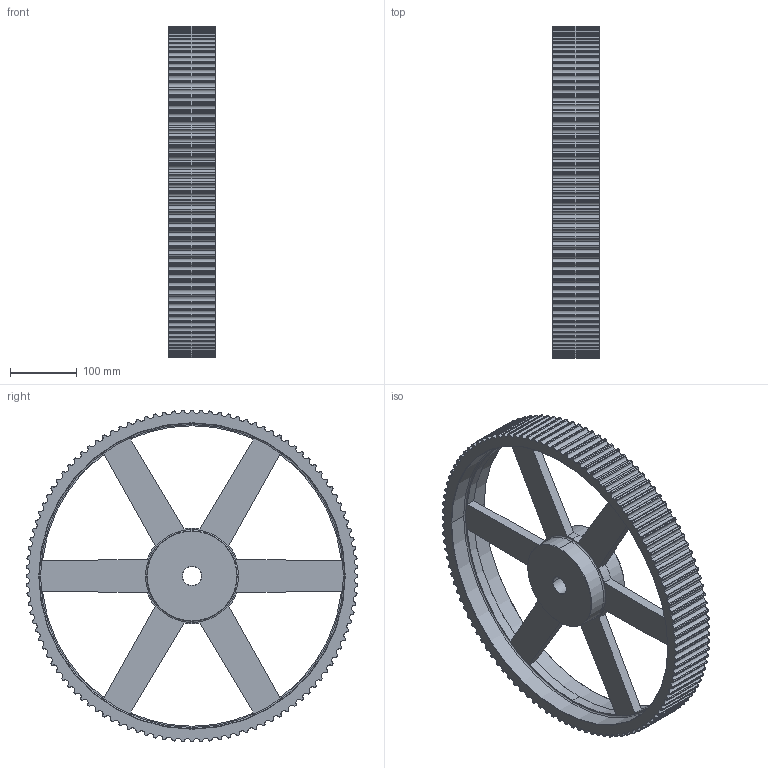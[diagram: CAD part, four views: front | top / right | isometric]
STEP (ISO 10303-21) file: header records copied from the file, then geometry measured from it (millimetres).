
FILE_DESCRIPTION(('STEP AP203'),'1');
FILE_NAME('112_-_14_m_55.stp','2019-06-11T09:28:55',('TraceParts'),('TraceParts S.A.'),'Spatial InterOp 3D',' ',' ');
FILE_SCHEMA(('CONFIG_CONTROL_DESIGN'));
Length unit declared in the file: millimetre
Products named in the file (1): 1
Bounding box: 70 x 496.32 x 496.32 mm (x, y, z)
Volume: 3444706.3 mm3; surface area: 477121.1 mm2
Topology: 1 solids, 1 shells, 624 faces, 1842 edges, 1224 vertices
Faces by surface type: cylinder 586, plane 18, cone 12, torus 8
Entity records: 21630 total; most frequent: DIRECTION 4300, CARTESIAN_POINT 3691, ORIENTED_EDGE 3684, EDGE_CURVE 1842, AXIS2_PLACEMENT_3D 1833, VERTEX_POINT 1224, CIRCLE 1208, EDGE_LOOP 642
